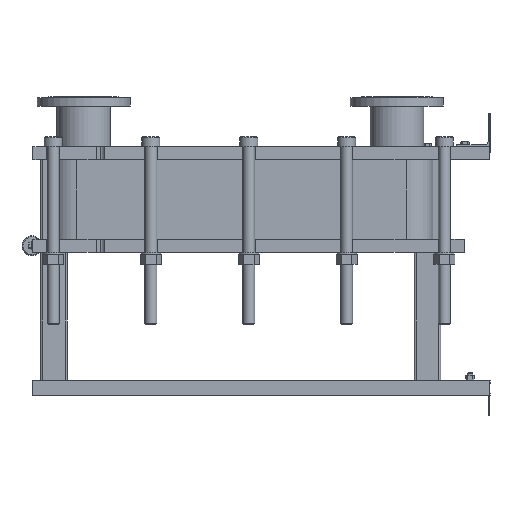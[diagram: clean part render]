
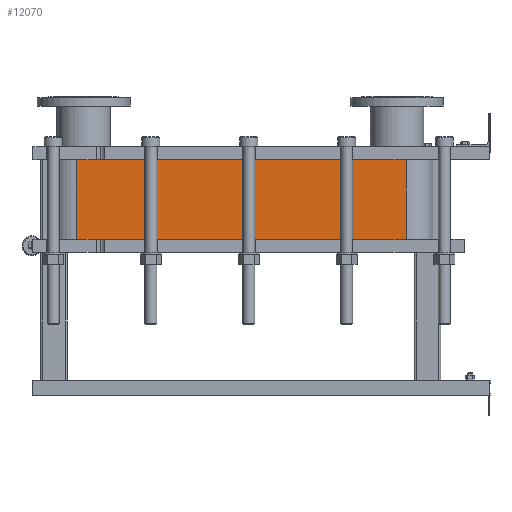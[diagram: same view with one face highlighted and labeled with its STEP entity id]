
A CAD part, left-side view. The second image highlights one B-rep face of the part: STEP entity #12070.
In plain terms, the highlighted planar face has unit normal (-1, 0, 0).
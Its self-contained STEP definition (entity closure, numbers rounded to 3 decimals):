
#1064=LINE('',#21140,#2164);
#1065=LINE('',#21144,#2165);
#1066=LINE('',#21146,#2166);
#1067=LINE('',#21147,#2167);
#2164=VECTOR('',#15790,10.);
#2165=VECTOR('',#15795,10.);
#2166=VECTOR('',#15796,10.);
#2167=VECTOR('',#15797,10.);
#3304=FACE_OUTER_BOUND('',#4091,.T.);
#4091=EDGE_LOOP('',(#9793,#9794,#9795,#9796));
#5677=VERTEX_POINT('',#21137);
#5678=VERTEX_POINT('',#21139);
#5679=VERTEX_POINT('',#21143);
#5680=VERTEX_POINT('',#21145);
#7118=EDGE_CURVE('',#5678,#5677,#1064,.T.);
#7120=EDGE_CURVE('',#5677,#5679,#1065,.T.);
#7121=EDGE_CURVE('',#5680,#5679,#1066,.T.);
#7122=EDGE_CURVE('',#5680,#5678,#1067,.T.);
#9793=ORIENTED_EDGE('',*,*,#7120,.T.);
#9794=ORIENTED_EDGE('',*,*,#7121,.F.);
#9795=ORIENTED_EDGE('',*,*,#7122,.T.);
#9796=ORIENTED_EDGE('',*,*,#7118,.T.);
#11441=PLANE('',#13191);
#12070=ADVANCED_FACE('',(#3304),#11441,.T.);
#13191=AXIS2_PLACEMENT_3D('',#21142,#15793,#15794);
#15790=DIRECTION('',(0.,0.,-1.));
#15793=DIRECTION('center_axis',(-1.,0.,0.));
#15794=DIRECTION('ref_axis',(0.,1.,0.));
#15795=DIRECTION('',(0.,-1.,0.));
#15796=DIRECTION('',(0.,0.,-1.));
#15797=DIRECTION('',(0.,1.,0.));
#21137=CARTESIAN_POINT('',(-248.152,1243.818,-238.05));
#21139=CARTESIAN_POINT('',(-248.152,1243.818,0.));
#21140=CARTESIAN_POINT('',(-248.152,1243.818,0.));
#21142=CARTESIAN_POINT('Origin',(-248.152,251.818,0.));
#21143=CARTESIAN_POINT('',(-248.152,251.818,-238.05));
#21144=CARTESIAN_POINT('',(-248.152,499.818,-238.05));
#21145=CARTESIAN_POINT('',(-248.152,251.818,0.));
#21146=CARTESIAN_POINT('',(-248.152,251.818,0.));
#21147=CARTESIAN_POINT('',(-248.152,251.818,0.));
